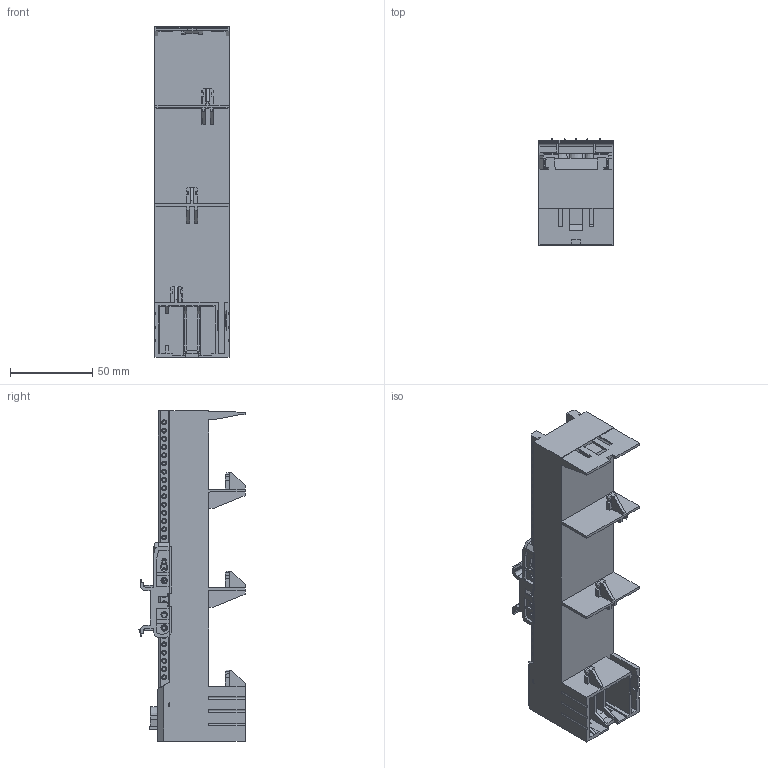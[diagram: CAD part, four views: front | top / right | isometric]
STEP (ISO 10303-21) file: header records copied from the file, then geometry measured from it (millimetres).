
FILE_DESCRIPTION (( 'STEP AP203' ), '1' );
FILE_NAME ('55350.STEP', '2021-08-17T00:19:09', ( '' ), ( '' ), 'SwSTEP 2.0', 'SolidWorks 2017', '' );
FILE_SCHEMA (( 'CONFIG_CONTROL_DESIGN' ));
Products named in the file (2): 55350
Bounding box: 45.01 x 64.5 x 200.7 mm (x, y, z)
Volume: 260645.9 mm3; surface area: 73114.6 mm2
Topology: 2 solids, 10 shells, 1789 faces, 5142 edges, 3501 vertices
Faces by surface type: plane 1086, cylinder 531, cone 156, bspline 16
Full cylindrical faces by diameter (mm): 1.988 x130, 2.779 x4, 2.882 x6, 2.982 x130, 4.864 x4, 5.169 x2
Entity records: 81098 total; most frequent: CARTESIAN_POINT 39765, ORIENTED_EDGE 8934, DIRECTION 6954, EDGE_CURVE 4467, VERTEX_POINT 3238, LINE 2518, VECTOR 2518, EDGE_LOOP 2407
